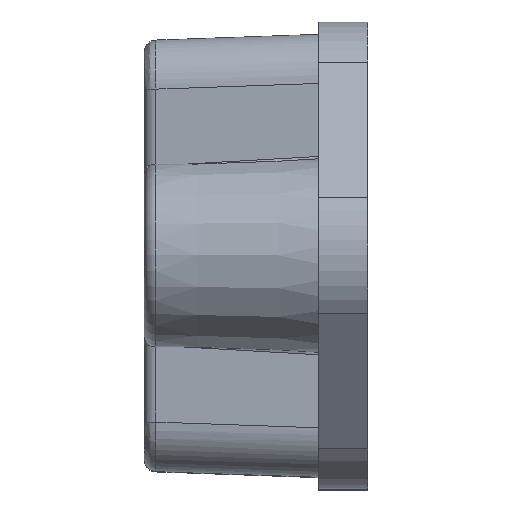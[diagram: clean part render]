
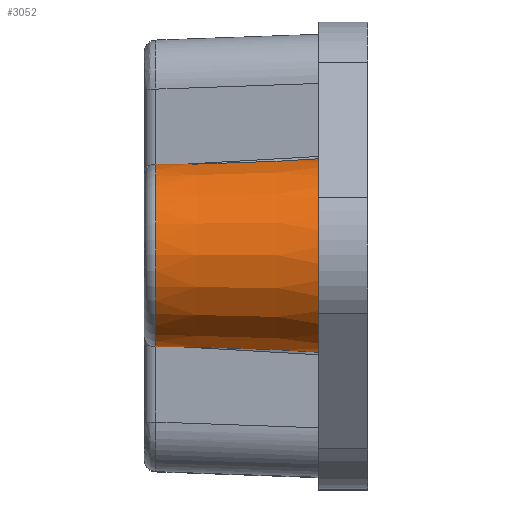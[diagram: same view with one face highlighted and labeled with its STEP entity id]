
A CAD part, top view. The second image highlights one B-rep face of the part: STEP entity #3052.
In plain terms, the highlighted conical face has half-angle 2 degrees and reference radius 3.832 mm.
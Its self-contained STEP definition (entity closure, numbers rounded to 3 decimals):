
#241=CARTESIAN_POINT('',(-10.217,0.,12.4));
#242=DIRECTION('',(1.,0.,0.));
#243=DIRECTION('',(0.,0.866,-0.5));
#244=AXIS2_PLACEMENT_3D('',#241,#242,#243);
#523=CARTESIAN_POINT('',(-3.6,3.578,10.732));
#524=CARTESIAN_POINT('',(-5.806,3.463,10.668));
#525=CARTESIAN_POINT('',(-8.012,3.344,10.604));
#526=CARTESIAN_POINT('',(-10.217,3.218,10.54));
#528=CARTESIAN_POINT('',(-3.6,0.,12.4));
#529=DIRECTION('',(1.,0.,0.));
#530=DIRECTION('',(0.,0.906,-0.422));
#531=AXIS2_PLACEMENT_3D('',#528,#529,#530);
#533=CARTESIAN_POINT('',(-10.217,-3.218,10.54));
#534=CARTESIAN_POINT('',(-8.012,-3.344,10.604));
#535=CARTESIAN_POINT('',(-5.806,-3.463,10.668));
#536=CARTESIAN_POINT('',(-3.6,-3.578,10.732));
#538=CARTESIAN_POINT('',(-3.6,3.578,10.732));
#572=CARTESIAN_POINT('',(-10.217,3.218,10.54));
#1798=CARTESIAN_POINT('',(-10.217,-3.218,
10.54));
#1800=VERTEX_POINT('',#1798);
#1836=VERTEX_POINT('',#536);
#1886=VERTEX_POINT('',#572);
#2019=VERTEX_POINT('',#538);
#3039=CARTESIAN_POINT('',(-6.909,0.,12.4));
#3040=DIRECTION('',(1.,0.,0.));
#3041=DIRECTION('',(0.,-1.,0.));
#3042=AXIS2_PLACEMENT_3D('',#3039,#3040,#3041);
#3043=CONICAL_SURFACE('',#3042,3.832,2.);
#3044=ORIENTED_EDGE('',*,*,#2341,.F.);
#3046=ORIENTED_EDGE('',*,*,#3045,.F.);
#3048=ORIENTED_EDGE('',*,*,#3047,.T.);
#3049=ORIENTED_EDGE('',*,*,#3022,.F.);
#3050=EDGE_LOOP('',(#3044,#3046,#3048,#3049));
#3051=FACE_OUTER_BOUND('',#3050,.F.);
#245=CIRCLE('',#244,3.717);
#527=B_SPLINE_CURVE_WITH_KNOTS('',3,(#523,#524,#525,#526),.UNSPECIFIED.,.F.,.F.,
(4,4),(0.,1.),.UNSPECIFIED.);
#532=CIRCLE('',#531,3.948);
#537=B_SPLINE_CURVE_WITH_KNOTS('',3,(#533,#534,#535,#536),.UNSPECIFIED.,.F.,.F.,
(4,4),(0.,1.),.UNSPECIFIED.);
#2341=EDGE_CURVE('',#1886,#1800,#245,.T.);
#3022=EDGE_CURVE('',#1800,#1836,#537,.T.);
#3045=EDGE_CURVE('',#2019,#1886,#527,.T.);
#3047=EDGE_CURVE('',#2019,#1836,#532,.T.);
#3052=ADVANCED_FACE('',(#3051),#3043,.T.);
